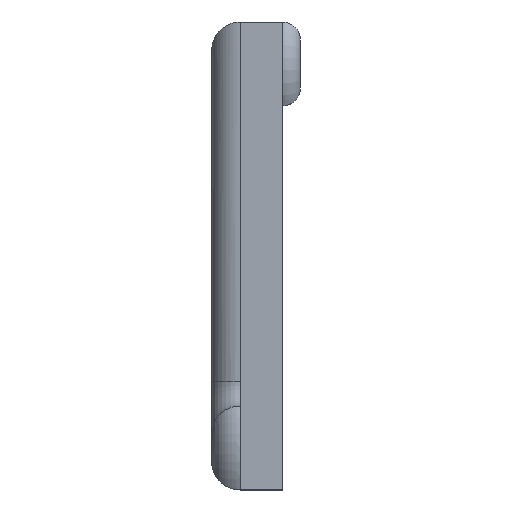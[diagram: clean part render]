
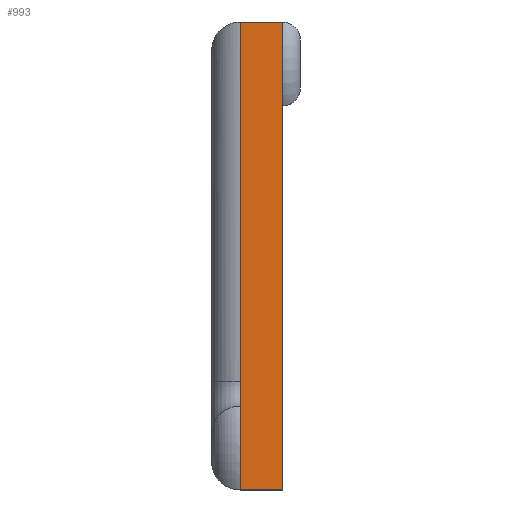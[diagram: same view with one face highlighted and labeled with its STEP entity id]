
A CAD part, left-side view. The second image highlights one B-rep face of the part: STEP entity #993.
In plain terms, the highlighted planar face has unit normal (-1, 0, 0).
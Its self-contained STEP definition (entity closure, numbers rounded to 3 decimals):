
#21 = CARTESIAN_POINT ( 'NONE',  ( -35., 1.75, -19.5 ) ) ;
#119 = EDGE_CURVE ( 'NONE', #184, #131, #2151, .T. ) ;
#131 = VERTEX_POINT ( 'NONE', #1019 ) ;
#143 = VECTOR ( 'NONE', #1598, 1000. ) ;
#184 = VERTEX_POINT ( 'NONE', #21 ) ;
#248 = DIRECTION ( 'NONE',  ( 0., -1., 0. ) ) ;
#267 = CARTESIAN_POINT ( 'NONE',  ( -35., 1.75, 19.5 ) ) ;
#323 = DIRECTION ( 'NONE',  ( 1., 0., 0. ) ) ;
#374 = DIRECTION ( 'NONE',  ( 0., 0., 1. ) ) ;
#529 = LINE ( 'NONE', #924, #575 ) ;
#566 = EDGE_LOOP ( 'NONE', ( #1255, #1837, #2064, #1296 ) ) ;
#575 = VECTOR ( 'NONE', #248, 1000. ) ;
#626 = VERTEX_POINT ( 'NONE', #1276 ) ;
#633 = VECTOR ( 'NONE', #1970, 1000. ) ;
#651 = CARTESIAN_POINT ( 'NONE',  ( -35., 1.75, -19.5 ) ) ;
#924 = CARTESIAN_POINT ( 'NONE',  ( -35., 1.75, 19.5 ) ) ;
#993 = ADVANCED_FACE ( 'NONE', ( #1515 ), #1506, .F. ) ;
#1019 = CARTESIAN_POINT ( 'NONE',  ( -35., -1.75, -19.5 ) ) ;
#1169 = VECTOR ( 'NONE', #374, 1000. ) ;
#1255 = ORIENTED_EDGE ( 'NONE', *, *, #1757, .T. ) ;
#1276 = CARTESIAN_POINT ( 'NONE',  ( -35., -1.75, 19.5 ) ) ;
#1296 = ORIENTED_EDGE ( 'NONE', *, *, #119, .T. ) ;
#1439 = CARTESIAN_POINT ( 'NONE',  ( -35., 1.75, -19.5 ) ) ;
#1506 = PLANE ( 'NONE',  #1733 ) ;
#1507 = EDGE_CURVE ( 'NONE', #184, #2098, #1762, .T. ) ;
#1515 = FACE_OUTER_BOUND ( 'NONE', #566, .T. ) ;
#1598 = DIRECTION ( 'NONE',  ( 0., 0., 1. ) ) ;
#1654 = DIRECTION ( 'NONE',  ( 0., 0., -1. ) ) ;
#1666 = CARTESIAN_POINT ( 'NONE',  ( -35., -1.75, -19.5 ) ) ;
#1733 = AXIS2_PLACEMENT_3D ( 'NONE', #1820, #323, #1654 ) ;
#1757 = EDGE_CURVE ( 'NONE', #131, #626, #1867, .T. ) ;
#1762 = LINE ( 'NONE', #1439, #143 ) ;
#1820 = CARTESIAN_POINT ( 'NONE',  ( -35., 1.75, -19.5 ) ) ;
#1837 = ORIENTED_EDGE ( 'NONE', *, *, #1952, .F. ) ;
#1867 = LINE ( 'NONE', #1666, #1169 ) ;
#1952 = EDGE_CURVE ( 'NONE', #2098, #626, #529, .T. ) ;
#1970 = DIRECTION ( 'NONE',  ( 0., -1., 0. ) ) ;
#2064 = ORIENTED_EDGE ( 'NONE', *, *, #1507, .F. ) ;
#2098 = VERTEX_POINT ( 'NONE', #267 ) ;
#2151 = LINE ( 'NONE', #651, #633 ) ;
